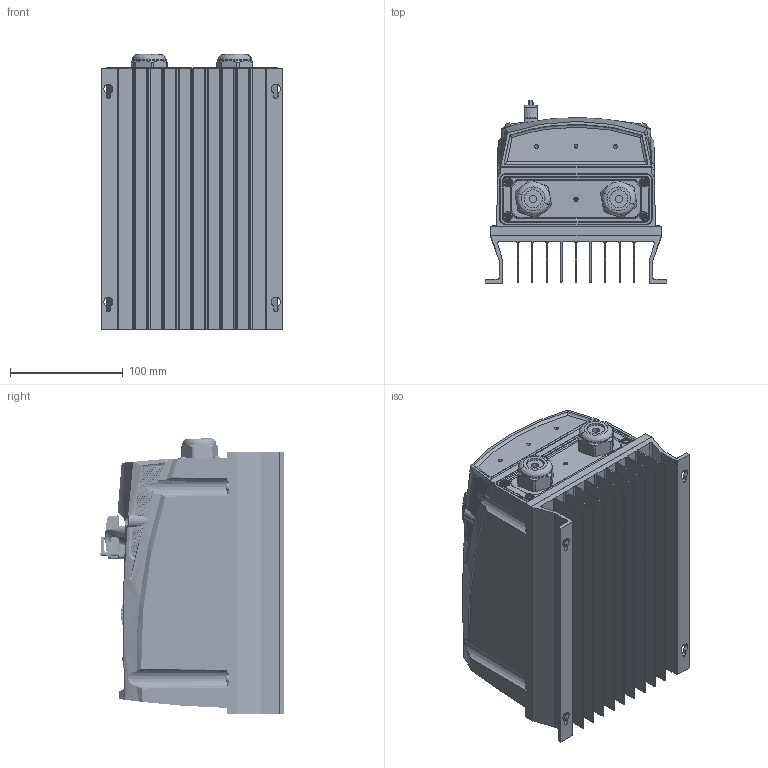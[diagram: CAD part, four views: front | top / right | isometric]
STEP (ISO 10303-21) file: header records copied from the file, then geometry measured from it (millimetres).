
FILE_DESCRIPTION (( 'STEP AP214' ), '1' );
FILE_NAME ('E3_IP66_Size_1_basic.STEP', '2018-06-20T23:39:29', ( '' ), ( '' ), 'SwSTEP 2.0', 'SolidWorks 2018', '' );
FILE_SCHEMA (( 'AUTOMOTIVE_DESIGN' ));
Length unit declared in the file: millimetre
Products named in the file (1): E3_IP66_Size_1_basic
Bounding box: 161 x 162.31 x 244.21 mm (x, y, z)
Volume: 3311629.5 mm3; surface area: 395875.6 mm2
Topology: 2 solids, 2 shells, 3921 faces, 11160 edges, 7125 vertices
Faces by surface type: sphere 918, cylinder 898, bspline 760, plane 546, cone 541, torus 258
Entity records: 154863 total; most frequent: CARTESIAN_POINT 69649, ORIENTED_EDGE 19446, DIRECTION 15665, EDGE_CURVE 9723, AXIS2_PLACEMENT_3D 6894, VERTEX_POINT 6263, EDGE_LOOP 4310, FACE_OUTER_BOUND 3876
